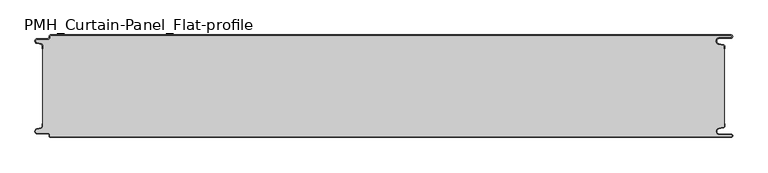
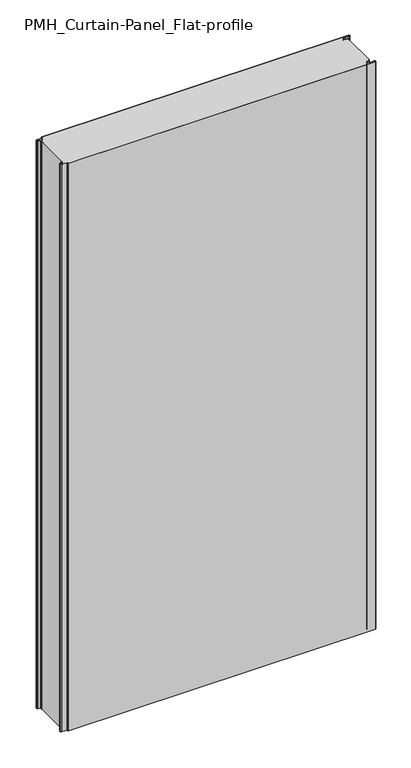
"""IFC4 building model written with IfcOpenShell, lengths in millimetres: plate geometry, PMH_Curtain-Panel_Flat-profile : ACH_PMH_Stone-wool-Panel_150M."""

from ifc_helpers import new_model, si_unit, point, frame, frame_2d, origin, origin_with_axes, place, context, project, spatial, polyline, circle_curve, trimmed, segment, composite_curve, outline, extrude, source, transform, mapped, element, save
from ifc_brep_helpers import plane_surface, cylinder_surface, revolved_surface, advanced_brep


def pmh_curtain_panel_flat_profile_b96734d3(model_context):
    return source(origin(), model_context, "Body", "SolidModel", [
        advanced_brep(
        [(508.1, 0.0, 1945.7507136), (-487.4, 0.0, 1945.7507136), (-489.4, -2.0, 1945.7507136), (-489.4, -3.4, 1945.7507136), (-491.4, -5.4, 1945.7507136), (-506.9, -5.4, 1945.7507136), (-507.7098239, -12.5077322, 1945.7507136), (-501.5500979, -13.929817, 1945.7507136), (-500.0, -15.878557, 1945.7507136), (-500.0, -20.0, 1945.7507136), (-499.2, -20.0, 1945.7507136), (-499.2, -15.878557, 1945.7507136), (-501.370137, -13.1503208, 1945.7507136), (-507.529863, -11.728236, 1945.7507136), (-506.9, -6.2, 1945.7507136), (-491.4, -6.2, 1945.7507136), (-488.6, -3.4, 1945.7507136), (-488.6, -2.0, 1945.7507136), (-487.4, -0.8, 1945.7507136), (508.1, -0.8, 1945.7507136), (508.1, -4.2, 1945.7507136), (491.1, -4.2, 1945.7507136), (490.2664884, -13.7270771, 1945.7507136), (496.7125669, -14.8636953, 1945.7507136), (498.2, -16.6363492, 1945.7507136), (498.2, -20.0, 1945.7507136), (499.0, -20.0, 1945.7507136), (499.0, -16.6363492, 1945.7507136), (496.8514855, -14.0758491, 1945.7507136), (490.405407, -12.939231, 1945.7507136), (491.1, -5.0, 1945.7507136), (508.1, -5.0, 1945.7507136), (510.6, -2.5000002, 1945.7507136), (-487.4, 0.0, 0.0), (508.1, 0.0, 0.0), (510.6, -2.4999998, 0.0), (508.1, -5.0, 0.0), (491.1, -5.0, 0.0), (490.405407, -12.939231, 0.0), (496.8514855, -14.0758491, 0.0), (499.0, -16.6363492, 0.0), (499.0, -20.0, 0.0), (498.2, -20.0, 0.0), (498.2, -16.6363492, 0.0), (496.7125669, -14.8636953, 0.0), (490.2664884, -13.7270771, 0.0), (491.1, -4.2, 0.0), (508.1, -4.2, 0.0), (508.1, -0.8, 0.0), (-487.4, -0.8, 0.0), (-488.6, -2.0, 0.0), (-488.6, -3.4, 0.0), (-491.4, -6.2, 0.0), (-506.9, -6.2, 0.0), (-507.529863, -11.7282362, 0.0), (-501.370137, -13.150321, 0.0), (-499.2, -15.878557, 0.0), (-499.2, -20.0, 0.0), (-500.0, -20.0, 0.0), (-500.0, -15.878557, 0.0), (-501.5500978, -13.9298169, 0.0), (-507.7098239, -12.507732, 0.0), (-506.9, -5.4, 0.0), (-491.4, -5.4, 0.0), (-489.4, -3.4, 0.0), (-489.4, -2.0, 0.0)],
        [
            (0, 1),
            (1, 2, circle_curve(frame((-487.4, -2.0, 1945.7507136), z_axis=(0.0, 0.0, 1.0), x_axis=(1.0, 0.0, 0.0)), 2.0)),
            (2, 3),
            (3, 4, circle_curve(frame((-491.4, -3.4, 1945.7507136), z_axis=(0.0, 0.0, -1.0), x_axis=(1.0, 0.0, 0.0)), 2.0)),
            (4, 5),
            (5, 6, circle_curve(frame((-506.9, -9.0, 1945.7507136), z_axis=(0.0, 0.0, 1.0), x_axis=(1.0, 0.0, 0.0)), 3.6)),
            (6, 7),
            (7, 8, circle_curve(frame((-502.0, -15.878557, 1945.7507136), z_axis=(0.0, 0.0, -1.0), x_axis=(1.0, 0.0, 0.0)), 2.0)),
            (8, 9),
            (9, 10),
            (10, 11),
            (11, 12, circle_curve(frame((-502.0, -15.878557, 1945.7507136), z_axis=(0.0, 0.0, 1.0), x_axis=(1.0, 0.0, 0.0)), 2.8)),
            (12, 13),
            (13, 14, circle_curve(frame((-506.9, -9.0, 1945.7507136), z_axis=(0.0, 0.0, -1.0), x_axis=(1.0, 0.0, 0.0)), 2.8)),
            (14, 15),
            (15, 16, circle_curve(frame((-491.4, -3.4, 1945.7507136), z_axis=(0.0, 0.0, 1.0), x_axis=(1.0, 0.0, 0.0)), 2.8)),
            (16, 17),
            (17, 18, circle_curve(frame((-487.4, -2.0, 1945.7507136), z_axis=(0.0, 0.0, -1.0), x_axis=(1.0, 0.0, 0.0)), 1.2)),
            (18, 19),
            (19, 20, circle_curve(frame((508.1, -2.5, 1945.7507136), z_axis=(0.0, 0.0, -1.0), x_axis=(1.0, 0.0, 0.0)), 1.7)),
            (20, 21),
            (21, 22, circle_curve(frame((491.1, -9.0, 1945.7507136), z_axis=(0.0, 0.0, 1.0), x_axis=(1.0, 0.0, 0.0)), 4.8)),
            (22, 23),
            (23, 24, circle_curve(frame((496.4, -16.6363492, 1945.7507136), z_axis=(0.0, 0.0, -1.0), x_axis=(1.0, 0.0, 0.0)), 1.8)),
            (24, 25),
            (25, 26),
            (26, 27),
            (27, 28, circle_curve(frame((496.4, -16.6363492, 1945.7507136), z_axis=(0.0, 0.0, 1.0), x_axis=(1.0, 0.0, 0.0)), 2.6)),
            (28, 29),
            (29, 30, circle_curve(frame((491.1, -9.0, 1945.7507136), z_axis=(0.0, 0.0, -1.0), x_axis=(1.0, 0.0, 0.0)), 4.0)),
            (30, 31),
            (31, 32, circle_curve(frame((508.1, -2.5, 1945.7507136), z_axis=(0.0, 0.0, 1.0), x_axis=(1.0, 0.0, 0.0)), 2.5)),
            (32, 0, circle_curve(frame((508.1, -2.5, 1945.7507136), z_axis=(0.0, 0.0, 1.0), x_axis=(1.0, 0.0, 0.0)), 2.5)),
            (33, 34),
            (34, 35, circle_curve(frame((508.1, -2.5, 0.0), z_axis=(0.0, 0.0, -1.0), x_axis=(1.0, 0.0, 0.0)), 2.5)),
            (35, 36, circle_curve(frame((508.1, -2.5, 0.0), z_axis=(0.0, 0.0, -1.0), x_axis=(1.0, 0.0, 0.0)), 2.5)),
            (36, 37),
            (37, 38, circle_curve(frame((491.1, -9.0, 0.0), z_axis=(0.0, 0.0, 1.0), x_axis=(1.0, 0.0, 0.0)), 4.0)),
            (38, 39),
            (39, 40, circle_curve(frame((496.4, -16.6363492, 0.0), z_axis=(0.0, 0.0, -1.0), x_axis=(1.0, 0.0, 0.0)), 2.6)),
            (40, 41),
            (41, 42),
            (42, 43),
            (43, 44, circle_curve(frame((496.4, -16.6363492, 0.0), z_axis=(0.0, 0.0, 1.0), x_axis=(1.0, 0.0, 0.0)), 1.8)),
            (44, 45),
            (45, 46, circle_curve(frame((491.1, -9.0, 0.0), z_axis=(0.0, 0.0, -1.0), x_axis=(1.0, 0.0, 0.0)), 4.8)),
            (46, 47),
            (47, 48, circle_curve(frame((508.1, -2.5, 0.0), z_axis=(0.0, 0.0, 1.0), x_axis=(1.0, 0.0, 0.0)), 1.7)),
            (48, 49),
            (49, 50, circle_curve(frame((-487.4, -2.0, 0.0), z_axis=(0.0, 0.0, 1.0), x_axis=(1.0, 0.0, 0.0)), 1.2)),
            (50, 51),
            (51, 52, circle_curve(frame((-491.4, -3.4, 0.0), z_axis=(0.0, 0.0, -1.0), x_axis=(1.0, 0.0, 0.0)), 2.8)),
            (52, 53),
            (53, 54, circle_curve(frame((-506.9, -9.0, 0.0), z_axis=(0.0, 0.0, 1.0), x_axis=(1.0, 0.0, 0.0)), 2.8)),
            (54, 55),
            (55, 56, circle_curve(frame((-502.0, -15.878557, 0.0), z_axis=(0.0, 0.0, -1.0), x_axis=(1.0, 0.0, 0.0)), 2.8)),
            (56, 57),
            (57, 58),
            (58, 59),
            (59, 60, circle_curve(frame((-502.0, -15.878557, 0.0), z_axis=(0.0, 0.0, 1.0), x_axis=(1.0, 0.0, 0.0)), 2.0)),
            (60, 61),
            (61, 62, circle_curve(frame((-506.9, -9.0, 0.0), z_axis=(0.0, 0.0, -1.0), x_axis=(1.0, 0.0, 0.0)), 3.6)),
            (62, 63),
            (63, 64, circle_curve(frame((-491.4, -3.4, 0.0), z_axis=(0.0, 0.0, 1.0), x_axis=(1.0, 0.0, 0.0)), 2.0)),
            (64, 65),
            (65, 33, circle_curve(frame((-487.4, -2.0, 0.0), z_axis=(0.0, 0.0, -1.0), x_axis=(1.0, 0.0, 0.0)), 2.0)),
            (1, 33),
            (65, 2),
            (64, 3),
            (63, 4),
            (62, 5),
            (61, 6),
            (60, 7),
            (59, 8),
            (58, 9),
            (57, 10),
            (56, 11),
            (55, 12),
            (54, 13),
            (53, 14),
            (52, 15),
            (51, 16),
            (50, 17),
            (49, 18),
            (48, 19),
            (47, 20),
            (46, 21),
            (45, 22),
            (44, 23),
            (43, 24),
            (42, 25),
            (41, 26),
            (40, 27),
            (39, 28),
            (38, 29),
            (37, 30),
            (36, 31),
            (34, 0),
        ],
        [
            plane_surface(frame((-500.0, 0.0, 1945.7507136), z_axis=(0.0, 0.0, 1.0), x_axis=(0.0, 1.0, 0.0))),
            plane_surface(frame((-500.0, 0.0, 0.0), z_axis=(0.0, 0.0, -1.0), x_axis=(0.0, 1.0, 0.0))),
            cylinder_surface(frame((-487.4, -2.0, 1945.7507136), z_axis=(0.0, 0.0, 1.0), x_axis=(1.0, 0.0, 0.0)), 2.0),
            plane_surface(frame((-489.4, -2.0, 1945.7507136), z_axis=(-1.0, 0.0, 0.0), x_axis=(0.0, 0.0, -1.0))),
            revolved_surface(polyline([(-489.4, -3.4, 0.0), (-489.4, -3.4, 1945.7507136)]), (-491.4, -3.4, 1945.7507136), (0.0, 0.0, -1.0)),
            plane_surface(frame((-491.4, -5.4, 1945.7507136), z_axis=(0.0, 1.0, 0.0), x_axis=(0.0, 0.0, -1.0))),
            cylinder_surface(frame((-506.9, -9.0, 1945.7507136), z_axis=(0.0, 0.0, 1.0), x_axis=(1.0, 0.0, 0.0)), 3.6),
            plane_surface(frame((-507.7098239, -12.507732, 1945.7507136), z_axis=(-0.2249510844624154, -0.9743700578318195, 0.0), x_axis=(0.0, 0.0, -1.0))),
            revolved_surface(polyline([(-500.0, -15.878557, 0.0), (-500.0, -15.878557, 1945.7507136)]), (-502.0, -15.878557, 1945.7507136), (0.0, 0.0, -1.0)),
            plane_surface(frame((-500.0, -15.878557, 1945.7507136), z_axis=(-1.0, 0.0, 0.0), x_axis=(0.0, 0.0, -1.0))),
            plane_surface(frame((-500.0, -20.0, 1945.7507136), z_axis=(0.0, -1.0, 0.0), x_axis=(0.0, 0.0, -1.0))),
            plane_surface(frame((-499.2, -20.0, 1945.7507136), z_axis=(1.0, 0.0, 0.0), x_axis=(0.0, 0.0, -1.0))),
            cylinder_surface(frame((-502.0, -15.878557, 1945.7507136), z_axis=(0.0, 0.0, 1.0), x_axis=(1.0, 0.0, 0.0)), 2.8),
            plane_surface(frame((-501.370137, -13.150321, 1945.7507136), z_axis=(0.22495108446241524, 0.9743700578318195, 0.0), x_axis=(0.0, 0.0, -1.0))),
            revolved_surface(polyline([(-504.09999999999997, -9.0, 0.0), (-504.09999999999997, -9.0, 1945.7507136)]), (-506.9, -9.0, 1945.7507136), (0.0, 0.0, -1.0)),
            plane_surface(frame((-506.9, -6.2, 1945.7507136), z_axis=(0.0, -1.0, 0.0), x_axis=(0.0, 0.0, -1.0))),
            cylinder_surface(frame((-491.4, -3.4, 1945.7507136), z_axis=(0.0, 0.0, 1.0), x_axis=(1.0, 0.0, 0.0)), 2.8),
            plane_surface(frame((-488.6, -3.4, 1945.7507136), z_axis=(1.0, 0.0, 0.0), x_axis=(0.0, 0.0, -1.0))),
            revolved_surface(polyline([(-486.2, -2.0, 0.0), (-486.2, -2.0, 1945.7507136)]), (-487.4, -2.0, 1945.7507136), (0.0, 0.0, -1.0)),
            plane_surface(frame((-487.4, -0.8, 1945.7507136), z_axis=(0.0, -1.0, 0.0), x_axis=(0.0, 0.0, -1.0))),
            revolved_surface(polyline([(509.8, -2.5, 0.0), (509.8, -2.5, 1945.7507136)]), (508.1, -2.5, 1945.7507136), (0.0, 0.0, -1.0)),
            plane_surface(frame((508.1, -4.2, 1945.7507136), z_axis=(0.0, 1.0, 0.0), x_axis=(0.0, 0.0, -1.0))),
            cylinder_surface(frame((491.1, -9.0, 1945.7507136), z_axis=(0.0, 0.0, 1.0), x_axis=(1.0, 0.0, 0.0)), 4.8),
            plane_surface(frame((490.2664884, -13.7270771, 1945.7507136), z_axis=(-0.17364826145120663, -0.984807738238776, 0.0), x_axis=(0.0, 0.0, -1.0))),
            revolved_surface(polyline([(498.2, -16.6363492, 0.0), (498.2, -16.6363492, 1945.7507136)]), (496.4, -16.6363492, 1945.7507136), (0.0, 0.0, -1.0)),
            plane_surface(frame((498.2, -16.6363492, 1945.7507136), z_axis=(-1.0, 0.0, 0.0), x_axis=(0.0, 0.0, -1.0))),
            plane_surface(frame((498.2, -20.0, 1945.7507136), z_axis=(0.0, -1.0, 0.0), x_axis=(0.0, 0.0, -1.0))),
            plane_surface(frame((499.0, -20.0, 1945.7507136), z_axis=(1.0, 0.0, 0.0), x_axis=(0.0, 0.0, -1.0))),
            cylinder_surface(frame((496.4, -16.6363492, 1945.7507136), z_axis=(0.0, 0.0, 1.0), x_axis=(1.0, 0.0, 0.0)), 2.6),
            plane_surface(frame((496.8514855, -14.0758491, 1945.7507136), z_axis=(0.17364826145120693, 0.9848077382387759, 0.0), x_axis=(0.0, 0.0, -1.0))),
            revolved_surface(polyline([(495.1, -9.0, 0.0), (495.1, -9.0, 1945.7507136)]), (491.1, -9.0, 1945.7507136), (0.0, 0.0, -1.0)),
            plane_surface(frame((491.1, -5.0, 1945.7507136), z_axis=(0.0, -1.0, 0.0), x_axis=(0.0, 0.0, -1.0))),
            cylinder_surface(frame((508.1, -2.5, 1945.7507136), z_axis=(0.0, 0.0, 1.0), x_axis=(1.0, 0.0, 0.0)), 2.5),
            plane_surface(frame((490.5783588, 0.0, 1945.7507136), z_axis=(0.0, 1.0, 0.0), x_axis=(0.0, 0.0, -1.0))),
        ],
        [
            (0, [[1, 2, 3, 4, 5, 6, 7, 8, 9, 10, 11, 12, 13, 14, 15, 16, 17, 18, 19, 20, 21, 22, 23, 24, 25, 26, 27, 28, 29, 30, 31, 32, 33]]),
            (1, [[34, 35, 36, 37, 38, 39, 40, 41, 42, 43, 44, 45, 46, 47, 48, 49, 50, 51, 52, 53, 54, 55, 56, 57, 58, 59, 60, 61, 62, 63, 64, 65, 66]]),
            (2, [[-2, 67, -66, 68]]),
            (3, [[-3, -68, -65, 69]]),
            (4, [[-4, -69, -64, 70]]),
            (5, [[-5, -70, -63, 71]]),
            (6, [[-6, -71, -62, 72]]),
            (7, [[-7, -72, -61, 73]]),
            (8, [[-8, -73, -60, 74]]),
            (9, [[-9, -74, -59, 75]]),
            (10, [[-10, -75, -58, 76]]),
            (11, [[-11, -76, -57, 77]]),
            (12, [[-12, -77, -56, 78]]),
            (13, [[-13, -78, -55, 79]]),
            (14, [[-14, -79, -54, 80]]),
            (15, [[-15, -80, -53, 81]]),
            (16, [[-16, -81, -52, 82]]),
            (17, [[-17, -82, -51, 83]]),
            (18, [[-18, -83, -50, 84]]),
            (19, [[-19, -84, -49, 85]]),
            (20, [[-20, -85, -48, 86]]),
            (21, [[-21, -86, -47, 87]]),
            (22, [[-22, -87, -46, 88]]),
            (23, [[-23, -88, -45, 89]]),
            (24, [[-24, -89, -44, 90]]),
            (25, [[-25, -90, -43, 91]]),
            (26, [[-26, -91, -42, 92]]),
            (27, [[-27, -92, -41, 93]]),
            (28, [[-28, -93, -40, 94]]),
            (29, [[-29, -94, -39, 95]]),
            (30, [[-30, -95, -38, 96]]),
            (31, [[-31, -96, -37, 97]]),
            (32, [[-97, -36, -35, 98, -33, -32]]),
            (33, [[-1, -98, -34, -67]]),
        ],
    ),
        extrude(outline(composite_curve([segment(polyline([(-499.2, -134.1214426), (-499.2, -15.8785573)]), True, "CONTINUOUS"), segment(trimmed(circle_curve(frame_2d((-502.0, -15.8785573)), 2.8), [point((-499.2, -15.8785573))], [point((-501.370137, -13.1503212))], True, "CARTESIAN"), True, "CONTINUOUS"), segment(polyline([(-501.370137, -13.1503212), (-507.5298631, -11.7282362)]), True, "CONTINUOUS"), segment(trimmed(circle_curve(frame_2d((-506.9, -9.0)), 2.8), [point((-507.5298631, -11.7282362))], [point((-506.9, -6.2))], False, "CARTESIAN"), True, "CONTINUOUS"), segment(polyline([(-506.9, -6.2), (-491.4000001, -6.2)]), True, "CONTINUOUS"), segment(trimmed(circle_curve(frame_2d((-491.4000001, -3.4)), 2.8), [point((-491.4000001, -6.2))], [point((-488.6000001, -3.4))], True, "CARTESIAN"), True, "CONTINUOUS"), segment(polyline([(-488.6000001, -3.4), (-488.6000001, -2.0)]), True, "CONTINUOUS"), segment(trimmed(circle_curve(frame_2d((-487.4000001, -2.0)), 1.2), [point((-488.6000001, -2.0))], [point((-487.4000001, -0.8))], False, "CARTESIAN"), True, "CONTINUOUS"), segment(polyline([(-487.4000001, -0.8), (508.1, -0.8)]), True, "CONTINUOUS"), segment(trimmed(circle_curve(frame_2d((508.1, -2.5)), 1.7), [point((508.1, -0.8))], [point((508.1, -4.2))], False, "CARTESIAN"), True, "CONTINUOUS"), segment(polyline([(508.1, -4.2), (491.1, -4.2)]), True, "CONTINUOUS"), segment(trimmed(circle_curve(frame_2d((491.1, -9.0)), 4.8), [point((491.1, -4.2))], [point((490.2664883, -13.7270771))], True, "CARTESIAN"), True, "CONTINUOUS"), segment(polyline([(490.2664883, -13.7270771), (496.7125668, -14.8636953)]), True, "CONTINUOUS"), segment(trimmed(circle_curve(frame_2d((496.4, -16.6363492)), 1.8), [point((496.7125668, -14.8636953))], [point((498.2, -16.6363492))], False, "CARTESIAN"), True, "CONTINUOUS"), segment(polyline([(498.2, -16.6363492), (498.2, -133.3636508)]), True, "CONTINUOUS"), segment(trimmed(circle_curve(frame_2d((496.4, -133.3636508)), 1.8), [point((498.2, -133.3636508))], [point((496.7125668, -135.1363047))], False, "CARTESIAN"), True, "CONTINUOUS"), segment(polyline([(496.7125668, -135.1363047), (490.2664883, -136.2729229)]), True, "CONTINUOUS"), segment(trimmed(circle_curve(frame_2d((491.1, -141.0)), 4.8), [point((490.2664883, -136.2729229))], [point((491.1, -145.8))], True, "CARTESIAN"), True, "CONTINUOUS"), segment(polyline([(491.1, -145.8), (508.1, -145.8)]), True, "CONTINUOUS"), segment(trimmed(circle_curve(frame_2d((508.1, -147.5)), 1.7), [point((508.1, -145.8))], [point((508.1, -149.2))], False, "CARTESIAN"), True, "CONTINUOUS"), segment(polyline([(508.1, -149.2), (-487.4000001, -149.2)]), True, "CONTINUOUS"), segment(trimmed(circle_curve(frame_2d((-487.4000001, -148.0)), 1.2), [point((-487.4000001, -149.2))], [point((-488.6000001, -148.0))], False, "CARTESIAN"), True, "CONTINUOUS"), segment(polyline([(-488.6000001, -148.0), (-488.6000001, -146.6)]), True, "CONTINUOUS"), segment(trimmed(circle_curve(frame_2d((-491.4000001, -146.6)), 2.8), [point((-488.6000001, -146.6))], [point((-491.4000001, -143.8))], True, "CARTESIAN"), True, "CONTINUOUS"), segment(polyline([(-491.4000001, -143.8), (-506.9, -143.8)]), True, "CONTINUOUS"), segment(trimmed(circle_curve(frame_2d((-506.9, -141.0)), 2.8), [point((-506.9, -143.8))], [point((-507.5298631, -138.2717638))], False, "CARTESIAN"), True, "CONTINUOUS"), segment(polyline([(-507.5298631, -138.2717638), (-501.370137, -136.8496788)]), True, "CONTINUOUS"), segment(trimmed(circle_curve(frame_2d((-502.0, -134.1214426)), 2.8), [point((-501.370137, -136.8496788))], [point((-499.2, -134.1214426))], True, "CARTESIAN"), True, "CONTINUOUS")], self_intersect=False)), origin_with_axes(), (0.0, 0.0, 1.0), 1945.7507136),
        advanced_brep(
        [(-487.4, -150.0, 1945.7507136), (508.1, -150.0, 1945.7507136), (510.6, -147.5000002, 1945.7507136), (508.1, -145.0, 1945.7507136), (491.1, -145.0, 1945.7507136), (490.405407, -137.060769, 1945.7507136), (496.8514855, -135.9241509, 1945.7507136), (499.0, -133.3636508, 1945.7507136), (499.0, -130.0, 1945.7507136), (498.2, -130.0, 1945.7507136), (498.2, -133.3636508, 1945.7507136), (496.7125669, -135.1363047, 1945.7507136), (490.2664884, -136.2729229, 1945.7507136), (491.1, -145.8, 1945.7507136), (508.1, -145.8, 1945.7507136), (508.1, -149.2, 1945.7507136), (-487.4, -149.2, 1945.7507136), (-488.6, -148.0, 1945.7507136), (-488.6, -146.6, 1945.7507136), (-491.4, -143.8, 1945.7507136), (-506.9, -143.8, 1945.7507136), (-507.529863, -138.2717638, 1945.7507136), (-501.370137, -136.849679, 1945.7507136), (-499.2, -134.121443, 1945.7507136), (-499.2, -130.0, 1945.7507136), (-500.0, -130.0, 1945.7507136), (-500.0, -134.121443, 1945.7507136), (-501.5500978, -136.0701831, 1945.7507136), (-507.7098239, -137.492268, 1945.7507136), (-506.9, -144.6, 1945.7507136), (-491.4, -144.6, 1945.7507136), (-489.4, -146.6, 1945.7507136), (-489.4, -148.0, 1945.7507136), (508.1, -150.0, 0.0), (-487.4, -150.0, 0.0), (-489.4, -148.0, 0.0), (-489.4, -146.6, 0.0), (-491.4, -144.6, 0.0), (-506.9, -144.6, 0.0), (-507.7098239, -137.4922678, 0.0), (-501.5500979, -136.070183, 0.0), (-500.0, -134.121443, 0.0), (-500.0, -130.0, 0.0), (-499.2, -130.0, 0.0), (-499.2, -134.121443, 0.0), (-501.370137, -136.8496792, 0.0), (-507.529863, -138.271764, 0.0), (-506.9, -143.8, 0.0), (-491.4, -143.8, 0.0), (-488.6, -146.6, 0.0), (-488.6, -148.0, 0.0), (-487.4, -149.2, 0.0), (508.1, -149.2, 0.0), (508.1, -145.8, 0.0), (491.1, -145.8, 0.0), (490.2664884, -136.2729229, 0.0), (496.7125669, -135.1363047, 0.0), (498.2, -133.3636508, 0.0), (498.2, -130.0, 0.0), (499.0, -130.0, 0.0), (499.0, -133.3636508, 0.0), (496.8514855, -135.9241509, 0.0), (490.405407, -137.060769, 0.0), (491.1, -145.0, 0.0), (508.1, -145.0, 0.0), (510.6, -147.4999998, 0.0)],
        [
            (0, 1),
            (1, 2, circle_curve(frame((508.1, -147.5, 1945.7507136), z_axis=(0.0, 0.0, 1.0), x_axis=(1.0, 0.0, 0.0)), 2.5)),
            (2, 3, circle_curve(frame((508.1, -147.5, 1945.7507136), z_axis=(0.0, 0.0, 1.0), x_axis=(1.0, 0.0, 0.0)), 2.5)),
            (3, 4),
            (4, 5, circle_curve(frame((491.1, -141.0, 1945.7507136), z_axis=(0.0, 0.0, -1.0), x_axis=(1.0, 0.0, 0.0)), 4.0)),
            (5, 6),
            (6, 7, circle_curve(frame((496.4, -133.3636508, 1945.7507136), z_axis=(0.0, 0.0, 1.0), x_axis=(1.0, 0.0, 0.0)), 2.6)),
            (7, 8),
            (8, 9),
            (9, 10),
            (10, 11, circle_curve(frame((496.4, -133.3636508, 1945.7507136), z_axis=(0.0, 0.0, -1.0), x_axis=(1.0, 0.0, 0.0)), 1.8)),
            (11, 12),
            (12, 13, circle_curve(frame((491.1, -141.0, 1945.7507136), z_axis=(0.0, 0.0, 1.0), x_axis=(1.0, 0.0, 0.0)), 4.8)),
            (13, 14),
            (14, 15, circle_curve(frame((508.1, -147.5, 1945.7507136), z_axis=(0.0, 0.0, -1.0), x_axis=(1.0, 0.0, 0.0)), 1.7)),
            (15, 16),
            (16, 17, circle_curve(frame((-487.4, -148.0, 1945.7507136), z_axis=(0.0, 0.0, -1.0), x_axis=(1.0, 0.0, 0.0)), 1.2)),
            (17, 18),
            (18, 19, circle_curve(frame((-491.4, -146.6, 1945.7507136), z_axis=(0.0, 0.0, 1.0), x_axis=(1.0, 0.0, 0.0)), 2.8)),
            (19, 20),
            (20, 21, circle_curve(frame((-506.9, -141.0, 1945.7507136), z_axis=(0.0, 0.0, -1.0), x_axis=(1.0, 0.0, 0.0)), 2.8)),
            (21, 22),
            (22, 23, circle_curve(frame((-502.0, -134.121443, 1945.7507136), z_axis=(0.0, 0.0, 1.0), x_axis=(1.0, 0.0, 0.0)), 2.8)),
            (23, 24),
            (24, 25),
            (25, 26),
            (26, 27, circle_curve(frame((-502.0, -134.121443, 1945.7507136), z_axis=(0.0, 0.0, -1.0), x_axis=(1.0, 0.0, 0.0)), 2.0)),
            (27, 28),
            (28, 29, circle_curve(frame((-506.9, -141.0, 1945.7507136), z_axis=(0.0, 0.0, 1.0), x_axis=(1.0, 0.0, 0.0)), 3.6)),
            (29, 30),
            (30, 31, circle_curve(frame((-491.4, -146.6, 1945.7507136), z_axis=(0.0, 0.0, -1.0), x_axis=(1.0, 0.0, 0.0)), 2.0)),
            (31, 32),
            (32, 0, circle_curve(frame((-487.4, -148.0, 1945.7507136), z_axis=(0.0, 0.0, 1.0), x_axis=(1.0, 0.0, 0.0)), 2.0)),
            (33, 34),
            (34, 35, circle_curve(frame((-487.4, -148.0, 0.0), z_axis=(0.0, 0.0, -1.0), x_axis=(1.0, 0.0, 0.0)), 2.0)),
            (35, 36),
            (36, 37, circle_curve(frame((-491.4, -146.6, 0.0), z_axis=(0.0, 0.0, 1.0), x_axis=(1.0, 0.0, 0.0)), 2.0)),
            (37, 38),
            (38, 39, circle_curve(frame((-506.9, -141.0, 0.0), z_axis=(0.0, 0.0, -1.0), x_axis=(1.0, 0.0, 0.0)), 3.6)),
            (39, 40),
            (40, 41, circle_curve(frame((-502.0, -134.121443, 0.0), z_axis=(0.0, 0.0, 1.0), x_axis=(1.0, 0.0, 0.0)), 2.0)),
            (41, 42),
            (42, 43),
            (43, 44),
            (44, 45, circle_curve(frame((-502.0, -134.121443, 0.0), z_axis=(0.0, 0.0, -1.0), x_axis=(1.0, 0.0, 0.0)), 2.8)),
            (45, 46),
            (46, 47, circle_curve(frame((-506.9, -141.0, 0.0), z_axis=(0.0, 0.0, 1.0), x_axis=(1.0, 0.0, 0.0)), 2.8)),
            (47, 48),
            (48, 49, circle_curve(frame((-491.4, -146.6, 0.0), z_axis=(0.0, 0.0, -1.0), x_axis=(1.0, 0.0, 0.0)), 2.8)),
            (49, 50),
            (50, 51, circle_curve(frame((-487.4, -148.0, 0.0), z_axis=(0.0, 0.0, 1.0), x_axis=(1.0, 0.0, 0.0)), 1.2)),
            (51, 52),
            (52, 53, circle_curve(frame((508.1, -147.5, 0.0), z_axis=(0.0, 0.0, 1.0), x_axis=(1.0, 0.0, 0.0)), 1.7)),
            (53, 54),
            (54, 55, circle_curve(frame((491.1, -141.0, 0.0), z_axis=(0.0, 0.0, -1.0), x_axis=(1.0, 0.0, 0.0)), 4.8)),
            (55, 56),
            (56, 57, circle_curve(frame((496.4, -133.3636508, 0.0), z_axis=(0.0, 0.0, 1.0), x_axis=(1.0, 0.0, 0.0)), 1.8)),
            (57, 58),
            (58, 59),
            (59, 60),
            (60, 61, circle_curve(frame((496.4, -133.3636508, 0.0), z_axis=(0.0, 0.0, -1.0), x_axis=(1.0, 0.0, 0.0)), 2.6)),
            (61, 62),
            (62, 63, circle_curve(frame((491.1, -141.0, 0.0), z_axis=(0.0, 0.0, 1.0), x_axis=(1.0, 0.0, 0.0)), 4.0)),
            (63, 64),
            (64, 65, circle_curve(frame((508.1, -147.5, 0.0), z_axis=(0.0, 0.0, -1.0), x_axis=(1.0, 0.0, 0.0)), 2.5)),
            (65, 33, circle_curve(frame((508.1, -147.5, 0.0), z_axis=(0.0, 0.0, -1.0), x_axis=(1.0, 0.0, 0.0)), 2.5)),
            (0, 34),
            (33, 1),
            (64, 3),
            (63, 4),
            (62, 5),
            (61, 6),
            (60, 7),
            (59, 8),
            (58, 9),
            (57, 10),
            (56, 11),
            (55, 12),
            (54, 13),
            (53, 14),
            (52, 15),
            (51, 16),
            (50, 17),
            (49, 18),
            (48, 19),
            (47, 20),
            (46, 21),
            (45, 22),
            (44, 23),
            (43, 24),
            (42, 25),
            (41, 26),
            (40, 27),
            (39, 28),
            (38, 29),
            (37, 30),
            (36, 31),
            (35, 32),
        ],
        [
            plane_surface(frame((-500.0, -150.0, 1945.7507136), z_axis=(0.0, 0.0, 1.0), x_axis=(0.0, 1.0, 0.0))),
            plane_surface(frame((-500.0, -150.0, 0.0), z_axis=(0.0, 0.0, -1.0), x_axis=(0.0, 1.0, 0.0))),
            plane_surface(frame((490.5783588, -150.0, 1945.7507136), z_axis=(0.0, -1.0, 0.0), x_axis=(0.0, 0.0, -1.0))),
            cylinder_surface(frame((508.1, -147.5, 1945.7507136), z_axis=(0.0, 0.0, 1.0), x_axis=(1.0, 0.0, 0.0)), 2.5),
            plane_surface(frame((508.1, -145.0, 1945.7507136), z_axis=(0.0, 1.0, 0.0), x_axis=(0.0, 0.0, -1.0))),
            revolved_surface(polyline([(495.1, -141.0, 0.0), (495.1, -141.0, 1945.7507136)]), (491.1, -141.0, 1945.7507136), (0.0, 0.0, -1.0)),
            plane_surface(frame((490.405407, -137.060769, 1945.7507136), z_axis=(0.17364826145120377, -0.9848077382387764, 0.0), x_axis=(0.0, 0.0, -1.0))),
            cylinder_surface(frame((496.4, -133.3636508, 1945.7507136), z_axis=(0.0, 0.0, 1.0), x_axis=(1.0, 0.0, 0.0)), 2.6),
            plane_surface(frame((499.0, -133.3636508, 1945.7507136), z_axis=(1.0, 0.0, 0.0), x_axis=(0.0, 0.0, -1.0))),
            plane_surface(frame((499.0, -130.0, 1945.7507136), z_axis=(0.0, 1.0, 0.0), x_axis=(0.0, 0.0, -1.0))),
            plane_surface(frame((498.2, -130.0, 1945.7507136), z_axis=(-1.0, 0.0, 0.0), x_axis=(0.0, 0.0, -1.0))),
            revolved_surface(polyline([(498.2, -133.3636508, 0.0), (498.2, -133.3636508, 1945.7507136)]), (496.4, -133.3636508, 1945.7507136), (0.0, 0.0, -1.0)),
            plane_surface(frame((496.7125669, -135.1363047, 1945.7507136), z_axis=(-0.17364826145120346, 0.9848077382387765, 0.0), x_axis=(0.0, 0.0, -1.0))),
            cylinder_surface(frame((491.1, -141.0, 1945.7507136), z_axis=(0.0, 0.0, 1.0), x_axis=(1.0, 0.0, 0.0)), 4.8),
            plane_surface(frame((491.1, -145.8, 1945.7507136), z_axis=(0.0, -1.0, 0.0), x_axis=(0.0, 0.0, -1.0))),
            revolved_surface(polyline([(509.8, -147.5, 0.0), (509.8, -147.5, 1945.7507136)]), (508.1, -147.5, 1945.7507136), (0.0, 0.0, -1.0)),
            plane_surface(frame((508.1, -149.2, 1945.7507136), z_axis=(0.0, 1.0, 0.0), x_axis=(0.0, 0.0, -1.0))),
            revolved_surface(polyline([(-486.2, -148.0, 0.0), (-486.2, -148.0, 1945.7507136)]), (-487.4, -148.0, 1945.7507136), (0.0, 0.0, -1.0)),
            plane_surface(frame((-488.6, -148.0, 1945.7507136), z_axis=(1.0, 0.0, 0.0), x_axis=(0.0, 0.0, -1.0))),
            cylinder_surface(frame((-491.4, -146.6, 1945.7507136), z_axis=(0.0, 0.0, 1.0), x_axis=(1.0, 0.0, 0.0)), 2.8),
            plane_surface(frame((-491.4, -143.8, 1945.7507136), z_axis=(0.0, 1.0, 0.0), x_axis=(0.0, 0.0, -1.0))),
            revolved_surface(polyline([(-504.09999999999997, -141.0, 0.0), (-504.09999999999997, -141.0, 1945.7507136)]), (-506.9, -141.0, 1945.7507136), (0.0, 0.0, -1.0)),
            plane_surface(frame((-507.529863, -138.271764, 1945.7507136), z_axis=(0.2249510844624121, -0.9743700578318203, 0.0), x_axis=(0.0, 0.0, -1.0))),
            cylinder_surface(frame((-502.0, -134.121443, 1945.7507136), z_axis=(0.0, 0.0, 1.0), x_axis=(1.0, 0.0, 0.0)), 2.8),
            plane_surface(frame((-499.2, -134.121443, 1945.7507136), z_axis=(1.0, 0.0, 0.0), x_axis=(0.0, 0.0, -1.0))),
            plane_surface(frame((-499.2, -130.0, 1945.7507136), z_axis=(0.0, 1.0, 0.0), x_axis=(0.0, 0.0, -1.0))),
            plane_surface(frame((-500.0, -130.0, 1945.7507136), z_axis=(-1.0, 0.0, 0.0), x_axis=(0.0, 0.0, -1.0))),
            revolved_surface(polyline([(-500.0, -134.121443, 0.0), (-500.0, -134.121443, 1945.7507136)]), (-502.0, -134.121443, 1945.7507136), (0.0, 0.0, -1.0)),
            plane_surface(frame((-501.5500979, -136.070183, 1945.7507136), z_axis=(-0.22495108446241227, 0.9743700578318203, 0.0), x_axis=(0.0, 0.0, -1.0))),
            cylinder_surface(frame((-506.9, -141.0, 1945.7507136), z_axis=(0.0, 0.0, 1.0), x_axis=(1.0, 0.0, 0.0)), 3.6),
            plane_surface(frame((-506.9, -144.6, 1945.7507136), z_axis=(0.0, -1.0, 0.0), x_axis=(0.0, 0.0, -1.0))),
            revolved_surface(polyline([(-489.4, -146.6, 0.0), (-489.4, -146.6, 1945.7507136)]), (-491.4, -146.6, 1945.7507136), (0.0, 0.0, -1.0)),
            plane_surface(frame((-489.4, -146.6, 1945.7507136), z_axis=(-1.0, 0.0, 0.0), x_axis=(0.0, 0.0, -1.0))),
            cylinder_surface(frame((-487.4, -148.0, 1945.7507136), z_axis=(0.0, 0.0, 1.0), x_axis=(1.0, 0.0, 0.0)), 2.0),
        ],
        [
            (0, [[1, 2, 3, 4, 5, 6, 7, 8, 9, 10, 11, 12, 13, 14, 15, 16, 17, 18, 19, 20, 21, 22, 23, 24, 25, 26, 27, 28, 29, 30, 31, 32, 33]]),
            (1, [[34, 35, 36, 37, 38, 39, 40, 41, 42, 43, 44, 45, 46, 47, 48, 49, 50, 51, 52, 53, 54, 55, 56, 57, 58, 59, 60, 61, 62, 63, 64, 65, 66]]),
            (2, [[-1, 67, -34, 68]]),
            (3, [[-68, -66, -65, 69, -3, -2]]),
            (4, [[-4, -69, -64, 70]]),
            (5, [[-5, -70, -63, 71]]),
            (6, [[-6, -71, -62, 72]]),
            (7, [[-7, -72, -61, 73]]),
            (8, [[-8, -73, -60, 74]]),
            (9, [[-9, -74, -59, 75]]),
            (10, [[-10, -75, -58, 76]]),
            (11, [[-11, -76, -57, 77]]),
            (12, [[-12, -77, -56, 78]]),
            (13, [[-13, -78, -55, 79]]),
            (14, [[-14, -79, -54, 80]]),
            (15, [[-15, -80, -53, 81]]),
            (16, [[-16, -81, -52, 82]]),
            (17, [[-17, -82, -51, 83]]),
            (18, [[-18, -83, -50, 84]]),
            (19, [[-19, -84, -49, 85]]),
            (20, [[-20, -85, -48, 86]]),
            (21, [[-21, -86, -47, 87]]),
            (22, [[-22, -87, -46, 88]]),
            (23, [[-23, -88, -45, 89]]),
            (24, [[-24, -89, -44, 90]]),
            (25, [[-25, -90, -43, 91]]),
            (26, [[-26, -91, -42, 92]]),
            (27, [[-27, -92, -41, 93]]),
            (28, [[-28, -93, -40, 94]]),
            (29, [[-29, -94, -39, 95]]),
            (30, [[-30, -95, -38, 96]]),
            (31, [[-31, -96, -37, 97]]),
            (32, [[-32, -97, -36, 98]]),
            (33, [[-33, -98, -35, -67]]),
        ],
    ),
    ])


if __name__ == "__main__":
    model = new_model("IFC4")
    model_context = context("Model", 3, world=origin())
    ifc_project = project(units=[si_unit("LENGTHUNIT", "METRE", prefix="MILLI")], contexts=[model_context])
    site = spatial("IfcSite", under=ifc_project)
    building = spatial("IfcBuilding", under=site)
    placement = place(None, origin())
    pmh_curtain_panel_flat_profile_shape = pmh_curtain_panel_flat_profile_b96734d3(model_context)
    element("IfcPlate", 1, ObjectType="PMH_Curtain-Panel_Flat-profile : ACH_PMH_Stone-wool-Panel_150M", at=placement, inside=building, context=model_context, shape_type="MappedRepresentation", body=[
        mapped(pmh_curtain_panel_flat_profile_shape, transform((0.0, 0.0, 0.0), x_axis=(1.0, 0.0, 0.0), y_axis=(0.0, 1.0, 0.0), z_axis=(0.0, 0.0, 1.0))),
    ])
    save(model, "model.ifc")
